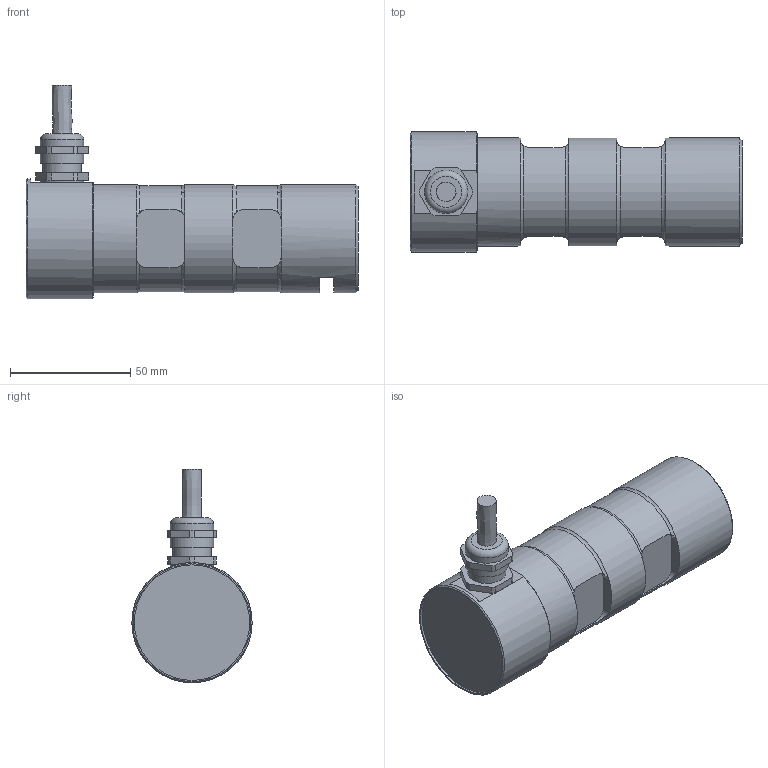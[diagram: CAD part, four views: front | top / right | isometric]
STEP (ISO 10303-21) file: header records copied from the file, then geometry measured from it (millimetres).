
FILE_DESCRIPTION(/* description */ ('Alibre Inc.'),/* implementation_level */ '2;1');
FILE_NAME(/* name */ 'export0',/* time_stamp */ '2013-08-16T11:40:24+02:00',/* author */ (''),/* organization */ (''),/* preprocessor_version */ 'ST-DEVELOPER v14',/* originating_system */ 'Alibre',/* authorisation */ '');
FILE_SCHEMA (('CONFIG_CONTROL_DESIGN'));
Length unit declared in the file: centimetre
Products named in the file (6): ID_1; ID_2; ID_3
Bounding box: 138 x 50 x 88.77 mm (x, y, z)
Volume: 221245 mm3; surface area: 29357.7 mm2
Topology: 4 solids, 4 shells, 111 faces, 265 edges, 169 vertices
Faces by surface type: plane 52, cylinder 44, torus 10, cone 4, bspline 1
Full cylindrical faces by diameter (mm): 8 x1, 10 x1, 14.376 x1, 16 x2, 18 x2, 45 x3, 48 x1, 50 x1
Entity records: 5311 total; most frequent: CARTESIAN_POINT 2490, ORIENTED_EDGE 482, DIRECTION 380, EDGE_CURVE 241, VERTEX_POINT 164, AXIS2_PLACEMENT_3D 160, FACE_BOUND 139, EDGE_LOOP 138
